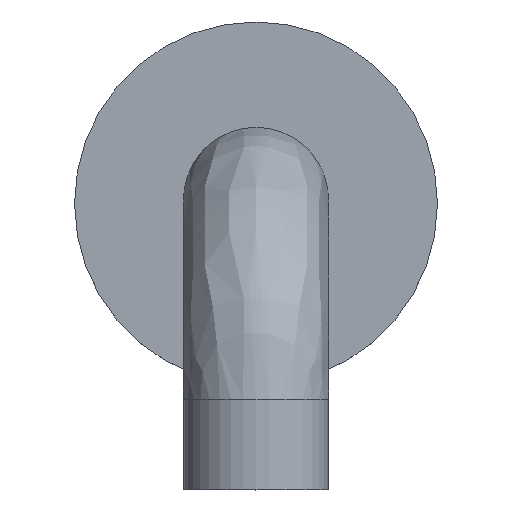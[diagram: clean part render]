
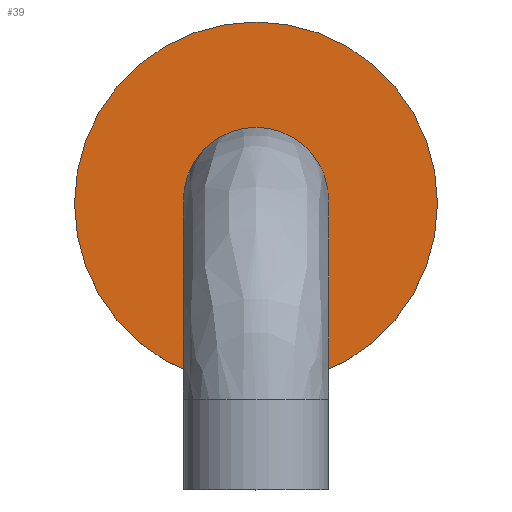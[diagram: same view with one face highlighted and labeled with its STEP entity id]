
A CAD part, top view. The second image highlights one B-rep face of the part: STEP entity #39.
In plain terms, the highlighted planar face has unit normal (0, 0, 1).
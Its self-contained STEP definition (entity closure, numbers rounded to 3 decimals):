
#39 = ADVANCED_FACE('',(#40),#60,.T.);
#40 = FACE_BOUND('',#41,.T.);
#41 = EDGE_LOOP('',(#42,#53));
#42 = ORIENTED_EDGE('',*,*,#43,.T.);
#43 = EDGE_CURVE('',#44,#46,#48,.T.);
#44 = VERTEX_POINT('',#45);
#45 = CARTESIAN_POINT('',(-30.,0.,
    7.));
#46 = VERTEX_POINT('',#47);
#47 = CARTESIAN_POINT('',(30.,0.,
    7.));
#48 = CIRCLE('',#49,30.);
#49 = AXIS2_PLACEMENT_3D('',#50,#51,#52);
#50 = CARTESIAN_POINT('',(0.,0.,
    7.));
#51 = DIRECTION('',(0.,0.,1.));
#52 = DIRECTION('',(1.,0.,-0.));
#53 = ORIENTED_EDGE('',*,*,#54,.T.);
#54 = EDGE_CURVE('',#46,#44,#55,.T.);
#55 = CIRCLE('',#56,30.);
#56 = AXIS2_PLACEMENT_3D('',#57,#58,#59);
#57 = CARTESIAN_POINT('',(0.,0.,
    7.));
#58 = DIRECTION('',(0.,0.,1.));
#59 = DIRECTION('',(1.,0.,-0.));
#60 = PLANE('',#61);
#61 = AXIS2_PLACEMENT_3D('',#62,#63,#64);
#62 = CARTESIAN_POINT('',(30.,0.,
    7.));
#63 = DIRECTION('',(0.,0.,1.));
#64 = DIRECTION('',(0.,1.,0.));
